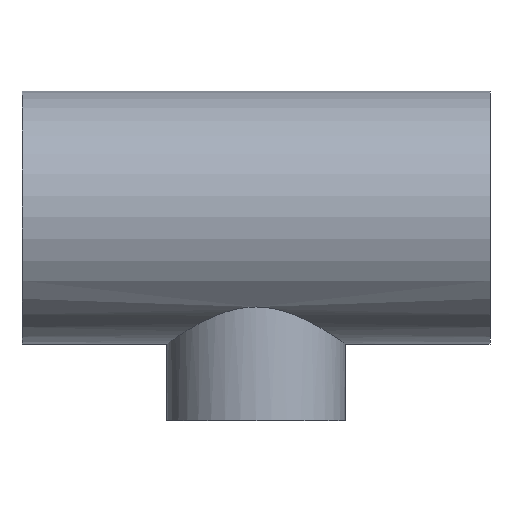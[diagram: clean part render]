
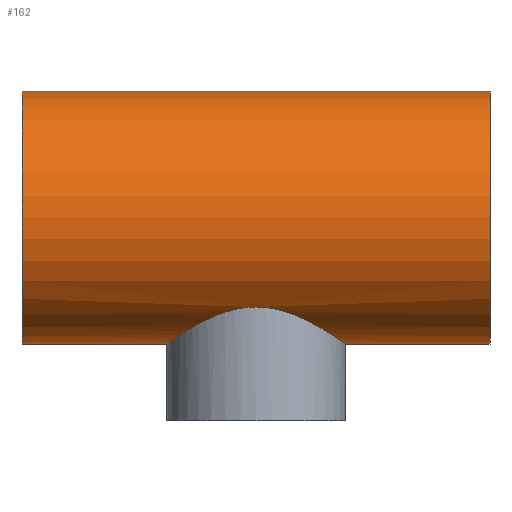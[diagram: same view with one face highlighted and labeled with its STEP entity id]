
A CAD part, top view. The second image highlights one B-rep face of the part: STEP entity #162.
In plain terms, the highlighted cylindrical face has radius 53 mm (diameter 106 mm), a full revolution.
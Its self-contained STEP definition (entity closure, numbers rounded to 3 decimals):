
#16=B_SPLINE_CURVE_WITH_KNOTS('',3,(#344,#345,#346,#347,#348,#349,#350,
#351,#352,#353,#354,#355,#356,#357,#358,#359,#360,#361,#362,#363,#364,#365,
#366,#367,#368,#369,#370,#371,#372,#373,#374,#375,#376,#377,#378,#379,#380,
#381,#382,#383,#384,#385,#386,#387,#388,#389,#390,#391,#392,#393,#394,#395,
#396,#397,#398,#399,#400,#401,#402,#403,#404,#405,#406,#407,#408,#409),
 .UNSPECIFIED.,.T.,.F.,(4,2,2,2,2,2,2,2,2,2,2,2,2,2,2,2,2,2,2,2,2,2,2,2,
2,2,2,2,2,2,2,2,4),(0.,0.747,1.493,2.24,
2.986,3.722,4.457,5.192,5.928,
6.663,7.398,8.133,8.869,9.615,
10.362,11.109,11.855,12.602,13.348,
14.095,14.842,15.577,16.312,17.047,
17.783,18.518,19.253,19.989,20.724,
21.471,22.217,22.964,23.71),
 .UNSPECIFIED.);
#32=FACE_BOUND('',#69,.T.);
#33=FACE_BOUND('',#70,.T.);
#46=FACE_OUTER_BOUND('',#68,.T.);
#68=EDGE_LOOP('',(#136));
#69=EDGE_LOOP('',(#137));
#70=EDGE_LOOP('',(#138));
#88=CIRCLE('',#187,53.);
#89=CIRCLE('',#188,53.);
#101=VERTEX_POINT('',#341);
#102=VERTEX_POINT('',#343);
#103=VERTEX_POINT('',#410);
#115=EDGE_CURVE('',#101,#101,#88,.T.);
#116=EDGE_CURVE('',#102,#102,#16,.T.);
#117=EDGE_CURVE('',#103,#103,#89,.T.);
#136=ORIENTED_EDGE('',*,*,#115,.F.);
#137=ORIENTED_EDGE('',*,*,#116,.T.);
#138=ORIENTED_EDGE('',*,*,#117,.F.);
#152=CYLINDRICAL_SURFACE('',#186,53.);
#162=ADVANCED_FACE('',(#46,#32,#33),#152,.T.);
#186=AXIS2_PLACEMENT_3D('',#340,#230,#231);
#187=AXIS2_PLACEMENT_3D('',#342,#232,#233);
#188=AXIS2_PLACEMENT_3D('',#411,#234,#235);
#230=DIRECTION('center_axis',(1.,0.,0.));
#231=DIRECTION('ref_axis',(0.,-1.,0.));
#232=DIRECTION('center_axis',(-1.,0.,0.));
#233=DIRECTION('ref_axis',(0.,-1.,0.));
#234=DIRECTION('center_axis',(1.,0.,0.));
#235=DIRECTION('ref_axis',(0.,-1.,0.));
#340=CARTESIAN_POINT('Origin',(0.,0.,0.));
#341=CARTESIAN_POINT('',(-98.,53.,0.));
#342=CARTESIAN_POINT('Origin',(-98.,0.,0.));
#343=CARTESIAN_POINT('',(0.,-37.453,37.5));
#344=CARTESIAN_POINT('Ctrl Pts',(0.,-37.453,
37.5));
#345=CARTESIAN_POINT('Ctrl Pts',(2.489,-37.453,37.5));
#346=CARTESIAN_POINT('Ctrl Pts',(5.004,-37.709,37.249));
#347=CARTESIAN_POINT('Ctrl Pts',(9.921,-38.67,36.251));
#348=CARTESIAN_POINT('Ctrl Pts',(12.324,-39.371,35.504));
#349=CARTESIAN_POINT('Ctrl Pts',(16.888,-41.03,33.574));
#350=CARTESIAN_POINT('Ctrl Pts',(19.053,-41.985,32.389));
#351=CARTESIAN_POINT('Ctrl Pts',(23.053,-43.945,29.675));
#352=CARTESIAN_POINT('Ctrl Pts',(24.887,-44.949,28.146));
#353=CARTESIAN_POINT('Ctrl Pts',(28.121,-46.817,24.912));
#354=CARTESIAN_POINT('Ctrl Pts',(29.646,-47.755,23.092));
#355=CARTESIAN_POINT('Ctrl Pts',(32.367,-49.49,19.091));
#356=CARTESIAN_POINT('Ctrl Pts',(33.564,-50.287,16.911));
#357=CARTESIAN_POINT('Ctrl Pts',(35.509,-51.606,12.312));
#358=CARTESIAN_POINT('Ctrl Pts',(36.26,-52.129,9.888));
#359=CARTESIAN_POINT('Ctrl Pts',(37.256,-52.826,4.958));
#360=CARTESIAN_POINT('Ctrl Pts',(37.5,-53.,2.451));
#361=CARTESIAN_POINT('Ctrl Pts',(37.5,-53.,-2.451));
#362=CARTESIAN_POINT('Ctrl Pts',(37.256,-52.826,-4.958));
#363=CARTESIAN_POINT('Ctrl Pts',(36.26,-52.129,-9.888));
#364=CARTESIAN_POINT('Ctrl Pts',(35.509,-51.606,-12.312));
#365=CARTESIAN_POINT('Ctrl Pts',(33.564,-50.287,-16.911));
#366=CARTESIAN_POINT('Ctrl Pts',(32.367,-49.49,-19.091));
#367=CARTESIAN_POINT('Ctrl Pts',(29.646,-47.755,-23.092));
#368=CARTESIAN_POINT('Ctrl Pts',(28.121,-46.817,-24.912));
#369=CARTESIAN_POINT('Ctrl Pts',(24.887,-44.949,-28.146));
#370=CARTESIAN_POINT('Ctrl Pts',(23.053,-43.945,-29.675));
#371=CARTESIAN_POINT('Ctrl Pts',(19.053,-41.985,-32.389));
#372=CARTESIAN_POINT('Ctrl Pts',(16.888,-41.03,-33.574));
#373=CARTESIAN_POINT('Ctrl Pts',(12.324,-39.371,-35.504));
#374=CARTESIAN_POINT('Ctrl Pts',(9.921,-38.67,-36.251));
#375=CARTESIAN_POINT('Ctrl Pts',(5.004,-37.709,-37.249));
#376=CARTESIAN_POINT('Ctrl Pts',(2.489,-37.453,-37.5));
#377=CARTESIAN_POINT('Ctrl Pts',(-2.489,-37.453,-37.5));
#378=CARTESIAN_POINT('Ctrl Pts',(-5.004,-37.709,-37.249));
#379=CARTESIAN_POINT('Ctrl Pts',(-9.921,-38.67,-36.251));
#380=CARTESIAN_POINT('Ctrl Pts',(-12.324,-39.371,-35.504));
#381=CARTESIAN_POINT('Ctrl Pts',(-16.888,-41.03,-33.574));
#382=CARTESIAN_POINT('Ctrl Pts',(-19.053,-41.985,-32.389));
#383=CARTESIAN_POINT('Ctrl Pts',(-23.053,-43.945,-29.675));
#384=CARTESIAN_POINT('Ctrl Pts',(-24.887,-44.949,-28.146));
#385=CARTESIAN_POINT('Ctrl Pts',(-28.121,-46.817,-24.912));
#386=CARTESIAN_POINT('Ctrl Pts',(-29.646,-47.755,-23.092));
#387=CARTESIAN_POINT('Ctrl Pts',(-32.367,-49.49,-19.091));
#388=CARTESIAN_POINT('Ctrl Pts',(-33.564,-50.287,-16.911));
#389=CARTESIAN_POINT('Ctrl Pts',(-35.509,-51.606,-12.312));
#390=CARTESIAN_POINT('Ctrl Pts',(-36.26,-52.129,-9.888));
#391=CARTESIAN_POINT('Ctrl Pts',(-37.256,-52.826,-4.958));
#392=CARTESIAN_POINT('Ctrl Pts',(-37.5,-53.,-2.451));
#393=CARTESIAN_POINT('Ctrl Pts',(-37.5,-53.,2.451));
#394=CARTESIAN_POINT('Ctrl Pts',(-37.256,-52.826,4.958));
#395=CARTESIAN_POINT('Ctrl Pts',(-36.26,-52.129,9.888));
#396=CARTESIAN_POINT('Ctrl Pts',(-35.509,-51.606,12.312));
#397=CARTESIAN_POINT('Ctrl Pts',(-33.564,-50.287,16.911));
#398=CARTESIAN_POINT('Ctrl Pts',(-32.367,-49.49,19.091));
#399=CARTESIAN_POINT('Ctrl Pts',(-29.646,-47.755,23.092));
#400=CARTESIAN_POINT('Ctrl Pts',(-28.121,-46.817,24.912));
#401=CARTESIAN_POINT('Ctrl Pts',(-24.887,-44.949,28.146));
#402=CARTESIAN_POINT('Ctrl Pts',(-23.053,-43.945,29.675));
#403=CARTESIAN_POINT('Ctrl Pts',(-19.053,-41.985,32.389));
#404=CARTESIAN_POINT('Ctrl Pts',(-16.888,-41.03,33.574));
#405=CARTESIAN_POINT('Ctrl Pts',(-12.324,-39.371,35.504));
#406=CARTESIAN_POINT('Ctrl Pts',(-9.921,-38.67,36.251));
#407=CARTESIAN_POINT('Ctrl Pts',(-5.004,-37.709,37.249));
#408=CARTESIAN_POINT('Ctrl Pts',(-2.489,-37.453,37.5));
#409=CARTESIAN_POINT('Ctrl Pts',(0.,-37.453,
37.5));
#410=CARTESIAN_POINT('',(98.,53.,0.));
#411=CARTESIAN_POINT('Origin',(98.,0.,0.));
